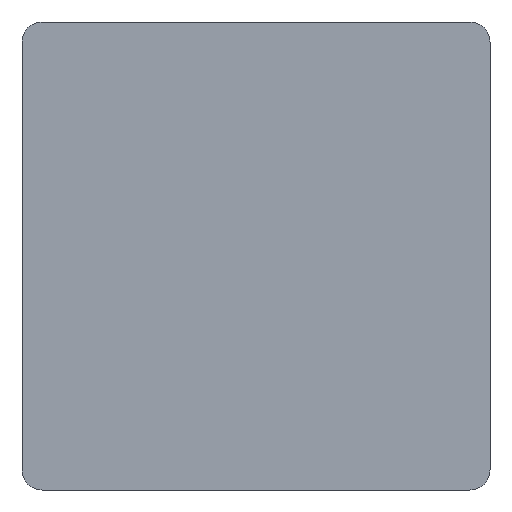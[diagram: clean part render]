
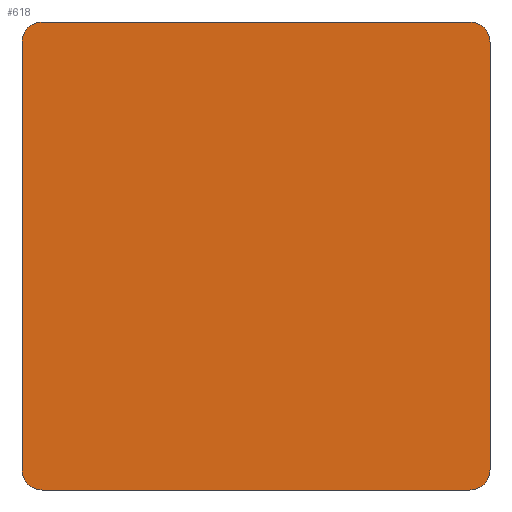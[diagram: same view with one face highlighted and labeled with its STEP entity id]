
A CAD part, front view. The second image highlights one B-rep face of the part: STEP entity #618.
In plain terms, the highlighted planar face has unit normal (0, -1, 0).
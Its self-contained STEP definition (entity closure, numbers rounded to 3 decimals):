
#237=DIRECTION('',(1.,0.,0.));
#238=VECTOR('',#237,58.1);
#239=CARTESIAN_POINT('',(-29.05,-490.,-31.8));
#240=LINE('',#239,#238);
#245=CARTESIAN_POINT('',(-29.05,-490.,-29.05));
#246=DIRECTION('',(0.,-1.,0.));
#247=DIRECTION('',(-1.,0.,0.));
#248=AXIS2_PLACEMENT_3D('',#245,#246,#247);
#254=DIRECTION('',(0.,0.,-1.));
#255=VECTOR('',#254,58.1);
#256=CARTESIAN_POINT('',(-31.8,-490.,29.05));
#257=LINE('',#256,#255);
#262=CARTESIAN_POINT('',(-29.05,-490.,29.05));
#263=DIRECTION('',(0.,-1.,0.));
#264=DIRECTION('',(0.,0.,1.));
#265=AXIS2_PLACEMENT_3D('',#262,#263,#264);
#271=DIRECTION('',(-1.,0.,0.));
#272=VECTOR('',#271,58.1);
#273=CARTESIAN_POINT('',(29.05,-490.,31.8));
#274=LINE('',#273,#272);
#279=CARTESIAN_POINT('',(29.05,-490.,29.05));
#280=DIRECTION('',(0.,-1.,0.));
#281=DIRECTION('',(1.,0.,0.));
#282=AXIS2_PLACEMENT_3D('',#279,#280,#281);
#288=DIRECTION('',(0.,0.,1.));
#289=VECTOR('',#288,58.1);
#290=CARTESIAN_POINT('',(31.8,-490.,-29.05));
#291=LINE('',#290,#289);
#296=CARTESIAN_POINT('',(29.05,-490.,-29.05));
#297=DIRECTION('',(0.,-1.,0.));
#298=DIRECTION('',(0.,0.,-1.));
#299=AXIS2_PLACEMENT_3D('',#296,#297,#298);
#341=CARTESIAN_POINT('',(-29.05,-490.,31.8));
#342=CARTESIAN_POINT('',(-31.8,-490.,29.05));
#343=VERTEX_POINT('',#341);
#344=VERTEX_POINT('',#342);
#345=CARTESIAN_POINT('',(-31.8,-490.,-29.05));
#346=VERTEX_POINT('',#345);
#347=CARTESIAN_POINT('',(-29.05,-490.,-31.8));
#348=VERTEX_POINT('',#347);
#349=CARTESIAN_POINT('',(29.05,-490.,-31.8));
#350=CARTESIAN_POINT('',(31.8,-490.,-29.05));
#351=VERTEX_POINT('',#349);
#352=VERTEX_POINT('',#350);
#353=CARTESIAN_POINT('',(31.8,-490.,29.05));
#354=VERTEX_POINT('',#353);
#355=CARTESIAN_POINT('',(29.05,-490.,31.8));
#356=VERTEX_POINT('',#355);
#596=CARTESIAN_POINT('',(0.,-490.,0.));
#597=DIRECTION('',(0.,1.,0.));
#598=DIRECTION('',(0.,0.,1.));
#599=AXIS2_PLACEMENT_3D('',#596,#597,#598);
#600=PLANE('',#599);
#601=ORIENTED_EDGE('',*,*,#586,.F.);
#603=ORIENTED_EDGE('',*,*,#602,.F.);
#605=ORIENTED_EDGE('',*,*,#604,.F.);
#607=ORIENTED_EDGE('',*,*,#606,.F.);
#609=ORIENTED_EDGE('',*,*,#608,.F.);
#611=ORIENTED_EDGE('',*,*,#610,.F.);
#613=ORIENTED_EDGE('',*,*,#612,.F.);
#615=ORIENTED_EDGE('',*,*,#614,.F.);
#616=EDGE_LOOP('',(#601,#603,#605,#607,#609,#611,#613,#615));
#617=FACE_OUTER_BOUND('',#616,.F.);
#249=CIRCLE('',#248,2.75);
#266=CIRCLE('',#265,2.75);
#283=CIRCLE('',#282,2.75);
#300=CIRCLE('',#299,2.75);
#586=EDGE_CURVE('',#348,#351,#240,.T.);
#602=EDGE_CURVE('',#346,#348,#249,.T.);
#604=EDGE_CURVE('',#344,#346,#257,.T.);
#606=EDGE_CURVE('',#343,#344,#266,.T.);
#608=EDGE_CURVE('',#356,#343,#274,.T.);
#610=EDGE_CURVE('',#354,#356,#283,.T.);
#612=EDGE_CURVE('',#352,#354,#291,.T.);
#614=EDGE_CURVE('',#351,#352,#300,.T.);
#618=ADVANCED_FACE('',(#617),#600,.F.);
